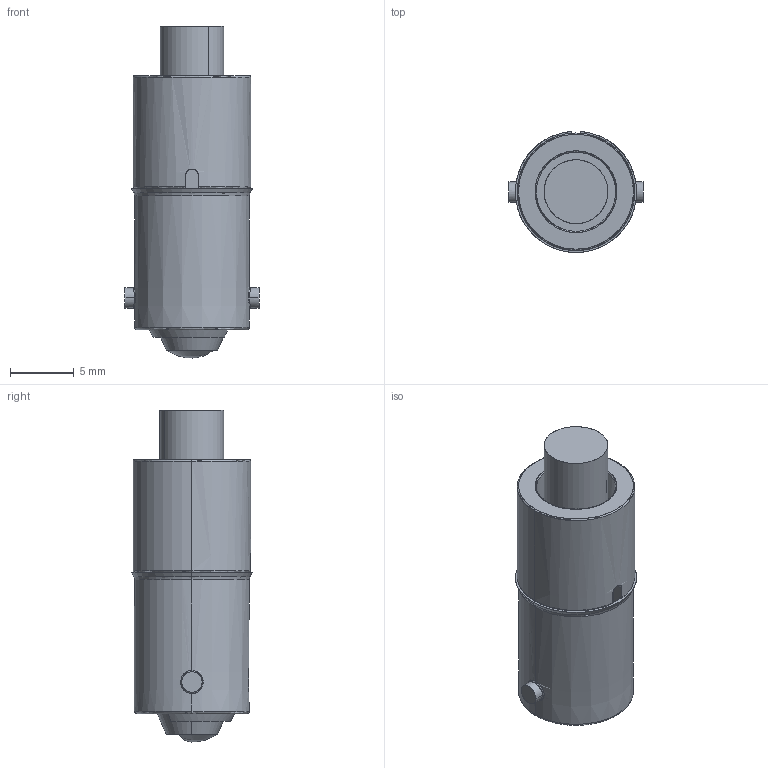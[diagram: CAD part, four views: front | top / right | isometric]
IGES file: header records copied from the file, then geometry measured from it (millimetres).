
Start section: SolidWorks IGES file using analytic representation for surfaces
Global section: file name: G:\Marl\DESIGN\Paul Robson\STEP-IGES FILES\255 Series\255 Series.IGS; native system: SolidWorks 2016; preprocessor: SolidWorks 2016; author: Paulr; date: 160804.101753; units: millimetre
Bounding box: 10.5 x 9.49 x 26 mm (x, y, z)
Surface area: 1766.8 mm2 (no closed solid volume)
Topology: 0 solids, 0 shells, 134 faces, 1683 edges, 1676 vertices
Faces by surface type: bspline 80, revolution 54
